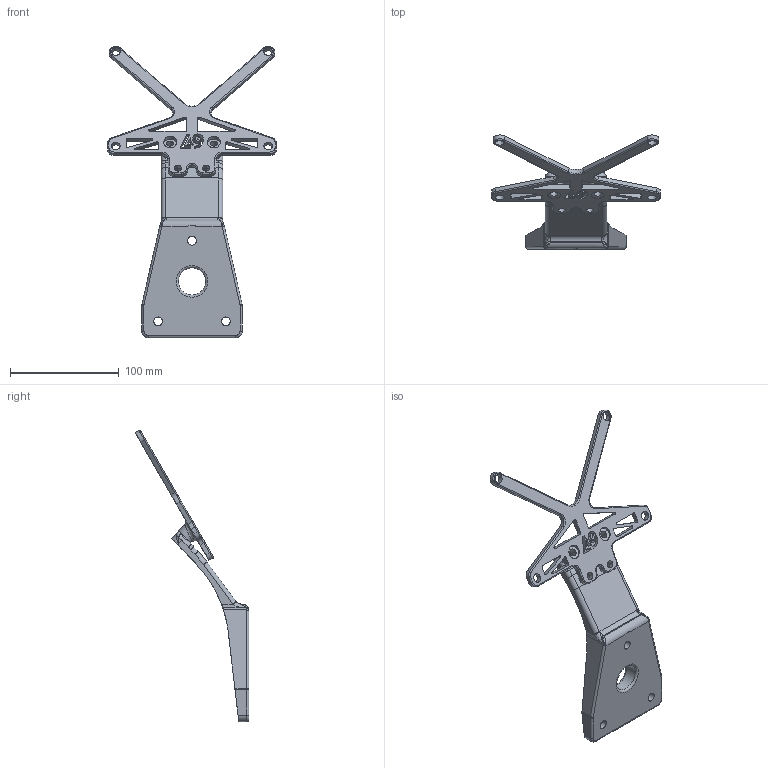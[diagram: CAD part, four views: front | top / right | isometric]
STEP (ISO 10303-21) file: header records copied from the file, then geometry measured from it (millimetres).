
FILE_DESCRIPTION(/* description */ (''),/* implementation_level */ '2;1');
FILE_NAME(/* name */ 'dr350 license plate bracket.step',/* time_stamp */ '2026-06-04T16:13:10-07:00',/* author */ (''),/* organization */ (''),/* preprocessor_version */ 'ST-DEVELOPER v20.1',/* originating_system */ 'Autodesk Translation Framework v15.8.0.0',/* authorisation */ '');
FILE_SCHEMA (('AUTOMOTIVE_DESIGN { 1 0 10303 214 3 1 1 }'));
Length unit declared in the file: millimetre
Products named in the file (2): dr350 license plate holder-FDM; dr350 license plate bracket v2 - FDM
Assembly tree (1 placements, depth 2):
  dr350 license plate holder-FDM
    dr350 license plate bracket v2 - FDM
Bounding box: 155 x 104.31 x 267.48 mm (x, y, z)
Volume: 129969.5 mm3; surface area: 69361.2 mm2
Topology: 2 solids, 2 shells, 463 faces, 1292 edges, 833 vertices
Faces by surface type: plane 189, cylinder 170, bspline 77, torus 27
Full cylindrical faces by diameter (mm): 4 x1, 6.5 x6, 8 x7, 16 x2, 25 x1
Entity records: 19397 total; most frequent: CARTESIAN_POINT 7730, ORIENTED_EDGE 2568, DIRECTION 2241, EDGE_CURVE 1284, VERTEX_POINT 833, AXIS2_PLACEMENT_3D 821, LINE 599, VECTOR 599
